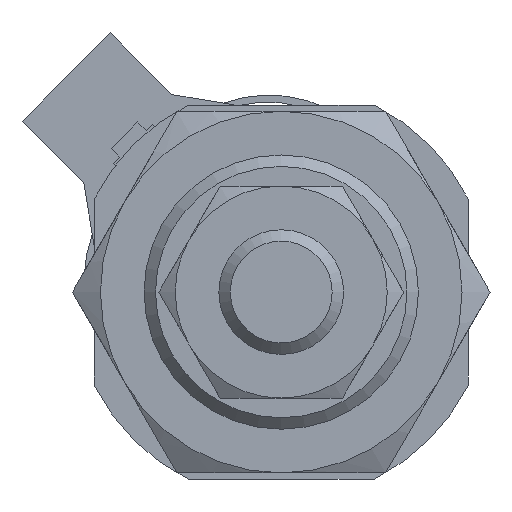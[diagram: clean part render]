
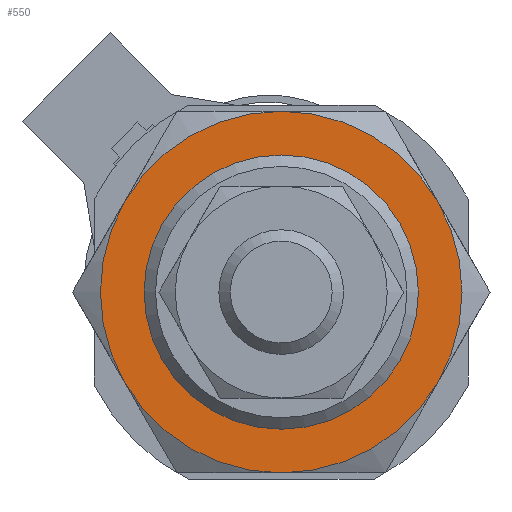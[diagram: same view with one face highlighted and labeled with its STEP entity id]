
A CAD part, left-side view. The second image highlights one B-rep face of the part: STEP entity #550.
In plain terms, the highlighted planar face has unit normal (-1, 0, 0).
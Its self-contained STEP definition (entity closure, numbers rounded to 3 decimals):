
#550 = ADVANCED_FACE( '', ( #1094, #1095 ), #1096, .F. );
#1094 = FACE_OUTER_BOUND( '', #1632, .T. );
#1095 = FACE_BOUND( '', #1633, .T. );
#1096 = PLANE( '', #1634 );
#1632 = EDGE_LOOP( '', ( #2827, #2828, #2829, #2830, #2831, #2832 ) );
#1633 = EDGE_LOOP( '', ( #2833 ) );
#1634 = AXIS2_PLACEMENT_3D( '', #2834, #2835, #2836 );
#2827 = ORIENTED_EDGE( '', *, *, #3310, .F. );
#2828 = ORIENTED_EDGE( '', *, *, #3458, .F. );
#2829 = ORIENTED_EDGE( '', *, *, #3257, .F. );
#2830 = ORIENTED_EDGE( '', *, *, #3445, .F. );
#2831 = ORIENTED_EDGE( '', *, *, #3341, .F. );
#2832 = ORIENTED_EDGE( '', *, *, #3388, .F. );
#2833 = ORIENTED_EDGE( '', *, *, #3148, .T. );
#2834 = CARTESIAN_POINT( '', ( 0., 0., 0. ) );
#2835 = DIRECTION( '', ( 1., 0., 0. ) );
#2836 = DIRECTION( '', ( 0., 0., -1. ) );
#3148 = EDGE_CURVE( '', #3750, #3750, #3751, .T. );
#3257 = EDGE_CURVE( '', #3919, #3920, #3921, .T. );
#3310 = EDGE_CURVE( '', #3735, #3990, #3991, .T. );
#3341 = EDGE_CURVE( '', #4032, #4029, #4034, .T. );
#3388 = EDGE_CURVE( '', #3990, #4032, #4092, .T. );
#3445 = EDGE_CURVE( '', #4029, #3919, #4155, .T. );
#3458 = EDGE_CURVE( '', #3920, #3735, #4169, .T. );
#3735 = VERTEX_POINT( '', #4570 );
#3750 = VERTEX_POINT( '', #4600 );
#3751 = CIRCLE( '', #4601, 11. );
#3919 = VERTEX_POINT( '', #4865 );
#3920 = VERTEX_POINT( '', #4866 );
#3921 = CIRCLE( '', #4867, 14.5 );
#3990 = VERTEX_POINT( '', #5008 );
#3991 = CIRCLE( '', #5009, 14.5 );
#4029 = VERTEX_POINT( '', #5081 );
#4032 = VERTEX_POINT( '', #5091 );
#4034 = CIRCLE( '', #5098, 14.5 );
#4092 = CIRCLE( '', #5180, 14.5 );
#4155 = CIRCLE( '', #5302, 14.5 );
#4169 = CIRCLE( '', #5322, 14.5 );
#4570 = CARTESIAN_POINT( '', ( 0., 12.557, -7.25 ) );
#4600 = CARTESIAN_POINT( '', ( 0., 0., -11. ) );
#4601 = AXIS2_PLACEMENT_3D( '', #5549, #5550, #5551 );
#4865 = CARTESIAN_POINT( '', ( 0., -12.557, -7.25 ) );
#4866 = CARTESIAN_POINT( '', ( 0., 0., -14.5 ) );
#4867 = AXIS2_PLACEMENT_3D( '', #5683, #5684, #5685 );
#5008 = CARTESIAN_POINT( '', ( 0., 12.557, 7.25 ) );
#5009 = AXIS2_PLACEMENT_3D( '', #5727, #5728, #5729 );
#5081 = CARTESIAN_POINT( '', ( 0., -12.557, 7.25 ) );
#5091 = CARTESIAN_POINT( '', ( 0., 0., 14.5 ) );
#5098 = AXIS2_PLACEMENT_3D( '', #5755, #5756, #5757 );
#5180 = AXIS2_PLACEMENT_3D( '', #5804, #5805, #5806 );
#5302 = AXIS2_PLACEMENT_3D( '', #5842, #5843, #5844 );
#5322 = AXIS2_PLACEMENT_3D( '', #5852, #5853, #5854 );
#5549 = CARTESIAN_POINT( '', ( 0., 0., 0. ) );
#5550 = DIRECTION( '', ( 1., 0., 0. ) );
#5551 = DIRECTION( '', ( 0., 0., -1. ) );
#5683 = CARTESIAN_POINT( '', ( 0., 0., 0. ) );
#5684 = DIRECTION( '', ( 1., 0., 0. ) );
#5685 = DIRECTION( '', ( 0., 0., -1. ) );
#5727 = CARTESIAN_POINT( '', ( 0., 0., 0. ) );
#5728 = DIRECTION( '', ( 1., 0., 0. ) );
#5729 = DIRECTION( '', ( 0., 0., -1. ) );
#5755 = CARTESIAN_POINT( '', ( 0., 0., 0. ) );
#5756 = DIRECTION( '', ( 1., 0., 0. ) );
#5757 = DIRECTION( '', ( 0., 0., -1. ) );
#5804 = CARTESIAN_POINT( '', ( 0., 0., 0. ) );
#5805 = DIRECTION( '', ( 1., 0., 0. ) );
#5806 = DIRECTION( '', ( 0., 0., -1. ) );
#5842 = CARTESIAN_POINT( '', ( 0., 0., 0. ) );
#5843 = DIRECTION( '', ( 1., 0., 0. ) );
#5844 = DIRECTION( '', ( 0., 0., -1. ) );
#5852 = CARTESIAN_POINT( '', ( 0., 0., 0. ) );
#5853 = DIRECTION( '', ( 1., 0., 0. ) );
#5854 = DIRECTION( '', ( 0., 0., -1. ) );
